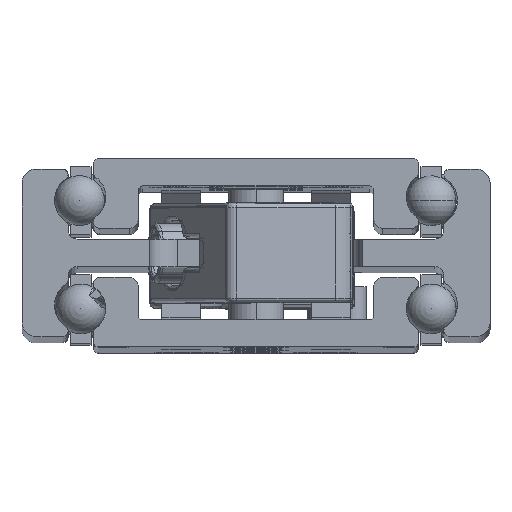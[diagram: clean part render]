
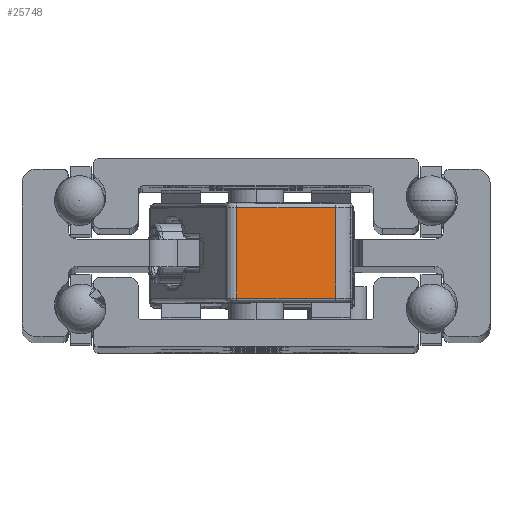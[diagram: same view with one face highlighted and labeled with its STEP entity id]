
A CAD part, top view. The second image highlights one B-rep face of the part: STEP entity #25748.
In plain terms, the highlighted planar face has unit normal (0.225, 0, 0.974) as drawn and (-1, 0, 0) by its records, which use the part's own axes.
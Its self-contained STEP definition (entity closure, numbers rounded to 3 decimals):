
#207 = ORIENTED_EDGE ( 'NONE', *, *, #967, .T. ) ;
#445 = DIRECTION ( 'NONE',  ( 1., 0., 0. ) ) ;
#967 = EDGE_CURVE ( 'NONE', #21941, #19342, #15367, .T. ) ;
#2469 = VERTEX_POINT ( 'NONE', #24865 ) ;
#4202 = LINE ( 'NONE', #9913, #19581 ) ;
#4779 = VECTOR ( 'NONE', #13059, 1000. ) ;
#5107 = CARTESIAN_POINT ( 'NONE',  ( -37., -3., 5.4 ) ) ;
#6718 = EDGE_CURVE ( 'NONE', #19342, #26731, #12348, .T. ) ;
#8385 = AXIS2_PLACEMENT_3D ( 'NONE', #15811, #445, #26142 ) ;
#8680 = VECTOR ( 'NONE', #13563, 1000. ) ;
#8719 = ORIENTED_EDGE ( 'NONE', *, *, #24581, .T. ) ;
#9913 = CARTESIAN_POINT ( 'NONE',  ( -37., 8., 5.4 ) ) ;
#10970 = VECTOR ( 'NONE', #16239, 1000. ) ;
#11698 = ORIENTED_EDGE ( 'NONE', *, *, #21738, .T. ) ;
#12206 = CARTESIAN_POINT ( 'NONE',  ( -37., 8., 4.9 ) ) ;
#12348 = LINE ( 'NONE', #12206, #10970 ) ;
#13059 = DIRECTION ( 'NONE',  ( 0., -1., 0. ) ) ;
#13320 = FACE_OUTER_BOUND ( 'NONE', #23164, .T. ) ;
#13563 = DIRECTION ( 'NONE',  ( 0., 0., 1. ) ) ;
#15367 = LINE ( 'NONE', #5107, #8680 ) ;
#15811 = CARTESIAN_POINT ( 'NONE',  ( -37., -4., 5.4 ) ) ;
#16239 = DIRECTION ( 'NONE',  ( 0., 1., 0. ) ) ;
#17104 = CARTESIAN_POINT ( 'NONE',  ( -37., -3., -4.9 ) ) ;
#17608 = PLANE ( 'NONE',  #8385 ) ;
#18373 = DIRECTION ( 'NONE',  ( 0., 0., -1. ) ) ;
#19342 = VERTEX_POINT ( 'NONE', #25353 ) ;
#19581 = VECTOR ( 'NONE', #18373, 1000. ) ;
#21738 = EDGE_CURVE ( 'NONE', #26731, #2469, #4202, .T. ) ;
#21941 = VERTEX_POINT ( 'NONE', #17104 ) ;
#23164 = EDGE_LOOP ( 'NONE', ( #207, #26505, #11698, #8719 ) ) ;
#23516 = LINE ( 'NONE', #23650, #4779 ) ;
#23650 = CARTESIAN_POINT ( 'NONE',  ( -37., -4., -4.9 ) ) ;
#24581 = EDGE_CURVE ( 'NONE', #2469, #21941, #23516, .T. ) ;
#24865 = CARTESIAN_POINT ( 'NONE',  ( -37., 8., -4.9 ) ) ;
#25353 = CARTESIAN_POINT ( 'NONE',  ( -37., -3., 4.9 ) ) ;
#25748 = ADVANCED_FACE ( 'NONE', ( #13320 ), #17608, .F. ) ;
#26142 = DIRECTION ( 'NONE',  ( 0., 0., -1. ) ) ;
#26505 = ORIENTED_EDGE ( 'NONE', *, *, #6718, .T. ) ;
#26731 = VERTEX_POINT ( 'NONE', #26740 ) ;
#26740 = CARTESIAN_POINT ( 'NONE',  ( -37., 8., 4.9 ) ) ;
